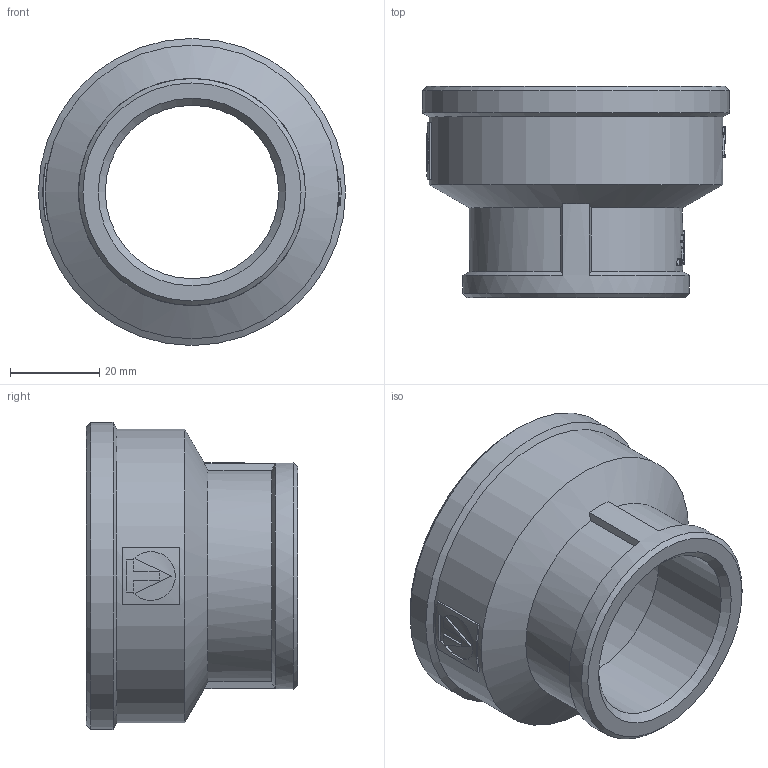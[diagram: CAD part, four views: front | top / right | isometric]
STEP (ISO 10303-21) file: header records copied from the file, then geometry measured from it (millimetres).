
FILE_DESCRIPTION(('STEP AP203'), '1');
FILE_NAME('ÂÐ.714361.011 - VTr.240.N.0907 Ìóôòà G2õG1 1-4', '2024-06-27T08:50:45', ('Boss'), (''), 'C3D Converter', 'C3D Toolkit', '');
FILE_SCHEMA(('CONFIG_CONTROL_DESIGN'));
Length unit declared in the file: millimetre
Products named in the file (1): ВР.714361.011
Bounding box: 69 x 47.5 x 69 mm (x, y, z)
Volume: 40939.4 mm3; surface area: 19551.9 mm2
Topology: 1 solids, 1 shells, 199 faces, 550 edges, 364 vertices
Faces by surface type: extrusion 102, plane 68, cylinder 20, cone 9
Full cylindrical faces by diameter (mm): 38.953 x1, 51 x1, 56.657 x1, 66 x1, 69 x1
Entity records: 8996 total; most frequent: CARTESIAN_POINT 4521, ORIENTED_EDGE 1074, DIRECTION 599, EDGE_CURVE 537, VERTEX_POINT 364, B_SPLINE_CURVE_WITH_KNOTS 316, VECTOR 303, EDGE_LOOP 225
